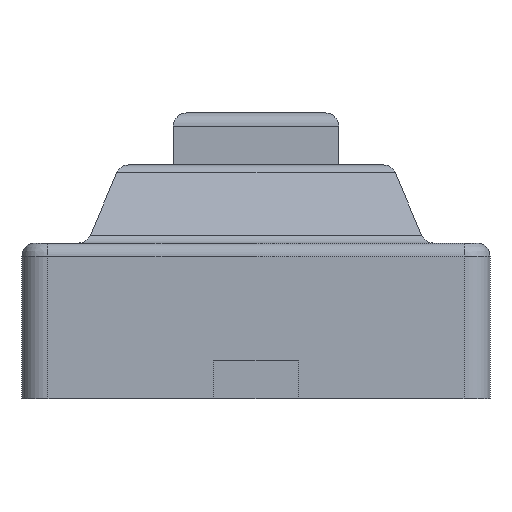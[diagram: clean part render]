
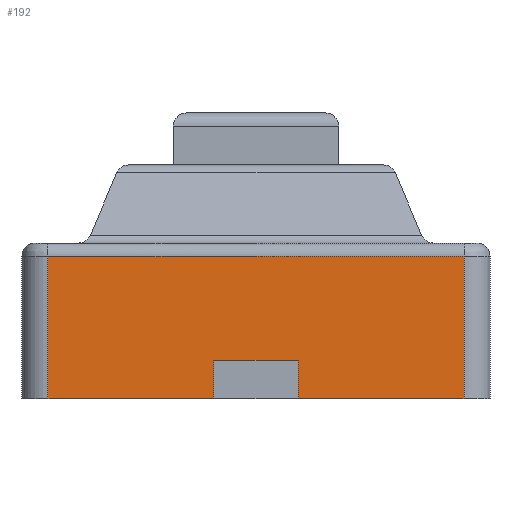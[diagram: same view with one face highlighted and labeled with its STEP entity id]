
A CAD part, left-side view. The second image highlights one B-rep face of the part: STEP entity #192.
In plain terms, the highlighted planar face has unit normal (-1, 0, 0).
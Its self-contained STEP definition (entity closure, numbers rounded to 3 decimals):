
#5 = CARTESIAN_POINT ( 'NONE',  ( -3., 1.8, 0.3 ) ) ;
#73 = CARTESIAN_POINT ( 'NONE',  ( -3., 1.8, 0. ) ) ;
#81 = EDGE_CURVE ( 'NONE', #666, #536, #1027, .T. ) ;
#108 = CARTESIAN_POINT ( 'NONE',  ( -3., 1.6, 0. ) ) ;
#131 = LINE ( 'NONE', #5, #740 ) ;
#161 = ORIENTED_EDGE ( 'NONE', *, *, #496, .T. ) ;
#192 = ADVANCED_FACE ( 'NONE', ( #1442 ), #1204, .F. ) ;
#204 = DIRECTION ( 'NONE',  ( 1., 0., 0. ) ) ;
#238 = EDGE_LOOP ( 'NONE', ( #1017, #675, #468, #463, #613, #1354, #701, #161 ) ) ;
#259 = EDGE_CURVE ( 'NONE', #354, #1407, #1213, .T. ) ;
#267 = VECTOR ( 'NONE', #868, 1000. ) ;
#282 = EDGE_CURVE ( 'NONE', #604, #531, #1118, .T. ) ;
#287 = CARTESIAN_POINT ( 'NONE',  ( -3., 1.6, 1.1 ) ) ;
#354 = VERTEX_POINT ( 'NONE', #788 ) ;
#371 = LINE ( 'NONE', #1016, #714 ) ;
#398 = EDGE_CURVE ( 'NONE', #1299, #581, #371, .T. ) ;
#450 = VECTOR ( 'NONE', #1274, 1000. ) ;
#463 = ORIENTED_EDGE ( 'NONE', *, *, #506, .T. ) ;
#468 = ORIENTED_EDGE ( 'NONE', *, *, #259, .T. ) ;
#496 = EDGE_CURVE ( 'NONE', #536, #604, #1311, .T. ) ;
#506 = EDGE_CURVE ( 'NONE', #1407, #1299, #741, .T. ) ;
#515 = CARTESIAN_POINT ( 'NONE',  ( -3., 0.325, 0.3 ) ) ;
#531 = VERTEX_POINT ( 'NONE', #1415 ) ;
#536 = VERTEX_POINT ( 'NONE', #1290 ) ;
#581 = VERTEX_POINT ( 'NONE', #515 ) ;
#597 = VECTOR ( 'NONE', #606, 1000. ) ;
#604 = VERTEX_POINT ( 'NONE', #1400 ) ;
#606 = DIRECTION ( 'NONE',  ( 0., 0., -1. ) ) ;
#613 = ORIENTED_EDGE ( 'NONE', *, *, #398, .T. ) ;
#629 = DIRECTION ( 'NONE',  ( 0., -1., 0. ) ) ;
#656 = CARTESIAN_POINT ( 'NONE',  ( -3., -1.6, 1.2 ) ) ;
#666 = VERTEX_POINT ( 'NONE', #978 ) ;
#675 = ORIENTED_EDGE ( 'NONE', *, *, #737, .T. ) ;
#701 = ORIENTED_EDGE ( 'NONE', *, *, #81, .T. ) ;
#714 = VECTOR ( 'NONE', #1137, 1000. ) ;
#737 = EDGE_CURVE ( 'NONE', #531, #354, #832, .T. ) ;
#740 = VECTOR ( 'NONE', #889, 1000. ) ;
#741 = LINE ( 'NONE', #1297, #952 ) ;
#774 = DIRECTION ( 'NONE',  ( 0., 0., -1. ) ) ;
#783 = CARTESIAN_POINT ( 'NONE',  ( -3., 1.8, 1.2 ) ) ;
#788 = CARTESIAN_POINT ( 'NONE',  ( -3., 1.6, 1.1 ) ) ;
#832 = LINE ( 'NONE', #287, #450 ) ;
#834 = VECTOR ( 'NONE', #629, 1000. ) ;
#868 = DIRECTION ( 'NONE',  ( 0., 0., 1. ) ) ;
#889 = DIRECTION ( 'NONE',  ( 0., 1., 0. ) ) ;
#952 = VECTOR ( 'NONE', #1282, 1000. ) ;
#956 = CARTESIAN_POINT ( 'NONE',  ( -3., 0.325, 0. ) ) ;
#978 = CARTESIAN_POINT ( 'NONE',  ( -3., -0.325, 0.3 ) ) ;
#1016 = CARTESIAN_POINT ( 'NONE',  ( -3., 0.325, 1.2 ) ) ;
#1017 = ORIENTED_EDGE ( 'NONE', *, *, #282, .T. ) ;
#1027 = LINE ( 'NONE', #1391, #597 ) ;
#1065 = VECTOR ( 'NONE', #774, 1000. ) ;
#1099 = CARTESIAN_POINT ( 'NONE',  ( -3., 1.6, 1.2 ) ) ;
#1118 = LINE ( 'NONE', #656, #267 ) ;
#1137 = DIRECTION ( 'NONE',  ( 0., 0., 1. ) ) ;
#1157 = AXIS2_PLACEMENT_3D ( 'NONE', #783, #204, #1317 ) ;
#1204 = PLANE ( 'NONE',  #1157 ) ;
#1213 = LINE ( 'NONE', #1099, #1065 ) ;
#1221 = EDGE_CURVE ( 'NONE', #666, #581, #131, .T. ) ;
#1274 = DIRECTION ( 'NONE',  ( 0., 1., 0. ) ) ;
#1282 = DIRECTION ( 'NONE',  ( 0., -1., 0. ) ) ;
#1290 = CARTESIAN_POINT ( 'NONE',  ( -3., -0.325, 0. ) ) ;
#1297 = CARTESIAN_POINT ( 'NONE',  ( -3., 1.8, 0. ) ) ;
#1299 = VERTEX_POINT ( 'NONE', #956 ) ;
#1311 = LINE ( 'NONE', #73, #834 ) ;
#1317 = DIRECTION ( 'NONE',  ( 0., 1., 0. ) ) ;
#1354 = ORIENTED_EDGE ( 'NONE', *, *, #1221, .F. ) ;
#1391 = CARTESIAN_POINT ( 'NONE',  ( -3., -0.325, 1.2 ) ) ;
#1400 = CARTESIAN_POINT ( 'NONE',  ( -3., -1.6, 0. ) ) ;
#1407 = VERTEX_POINT ( 'NONE', #108 ) ;
#1415 = CARTESIAN_POINT ( 'NONE',  ( -3., -1.6, 1.1 ) ) ;
#1442 = FACE_OUTER_BOUND ( 'NONE', #238, .T. ) ;
